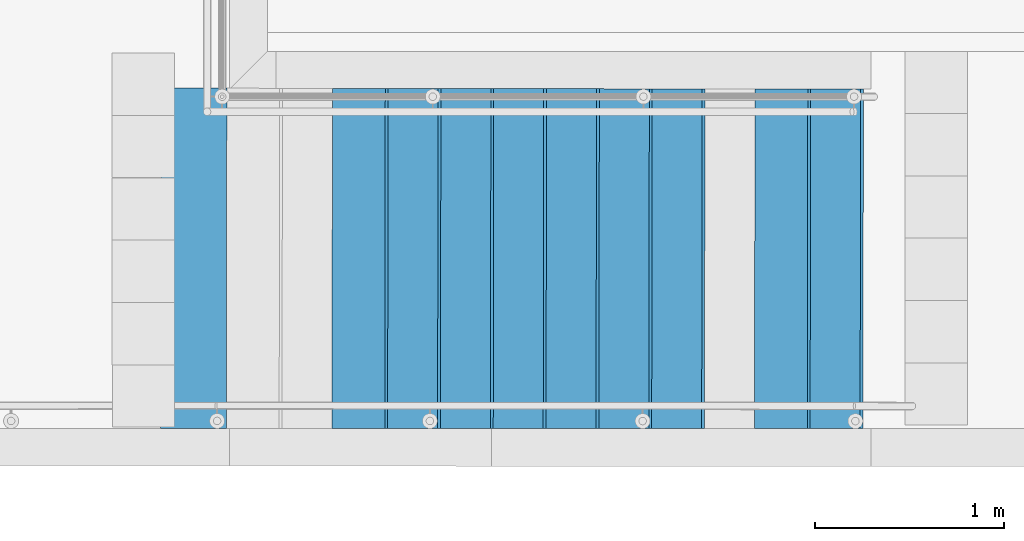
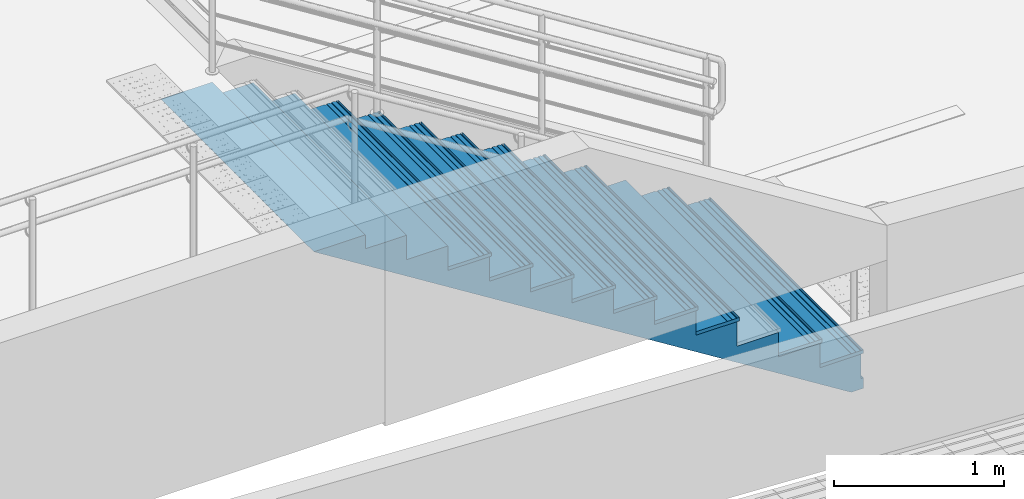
# One storey, part 24 of 237: 10 members, 1 element without a shape of its own.
"""IFC2X3 building model written with IfcOpenShell, lengths in millimetres."""

from ifc_helpers import new_model, entity, si_unit, converted_unit, derived_unit, money_unit, direction, frame, origin_with_axes, place, context, subcontext, project, spatial, faceted_brep, material, type_object, element, aggregate, save


model = new_model("IFC2X3")

# Units and contexts
model_context = context("Model", 3, precision=0.01, world=origin_with_axes(), true_north=direction((0.0, 1.0)))
body_context = subcontext(model_context, "Body", "Model", "MODEL_VIEW")
ifc_project = project(units=[si_unit("LENGTHUNIT", "METRE", prefix="MILLI"), si_unit("AREAUNIT", "SQUARE_METRE"), si_unit("VOLUMEUNIT", "CUBIC_METRE"), converted_unit("PLANEANGLEUNIT", "DEGREE", entity("IfcPlaneAngleMeasure", 0.0174532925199), si_unit("PLANEANGLEUNIT", "RADIAN"), dimensions=[0, 0, 0, 0, 0, 0, 0]), money_unit("USD"), converted_unit("TIMEUNIT", "Year", entity("IfcTimeMeasure", 31556926.0), si_unit("TIMEUNIT", "SECOND"), dimensions=[0, 0, 1, 0, 0, 0, 0]), si_unit("MASSUNIT", "GRAM", prefix="KILO"), si_unit("THERMODYNAMICTEMPERATUREUNIT", "DEGREE_CELSIUS"), si_unit("LUMINOUSINTENSITYUNIT", "LUMEN"), si_unit("ENERGYUNIT", "JOULE", prefix="MEGA"), derived_unit("THERMALCONDUCTANCEUNIT", [(si_unit("POWERUNIT", "WATT"), 1), (si_unit("LENGTHUNIT", "METRE"), -1), (si_unit("THERMODYNAMICTEMPERATUREUNIT", "KELVIN"), -1)]), derived_unit("SPECIFICHEATCAPACITYUNIT", [(si_unit("ENERGYUNIT", "JOULE"), 1), (si_unit("MASSUNIT", "GRAM", prefix="KILO"), -1), (si_unit("THERMODYNAMICTEMPERATUREUNIT", "KELVIN"), -1)]), derived_unit("MASSDENSITYUNIT", [(si_unit("MASSUNIT", "GRAM", prefix="KILO"), 1), (si_unit("VOLUMEUNIT", "CUBIC_METRE"), -1)])], contexts=[model_context])

# Site, building, storey
site_placement = place(None, origin_with_axes())
site = spatial("IfcSite", under=ifc_project, at=site_placement, Name="Local", CompositionType="ELEMENT")
building_placement = place(site_placement, origin_with_axes())
building = spatial("IfcBuilding", under=site, at=building_placement, Name="Construção", CompositionType="ELEMENT")
storey_placement = place(building_placement, origin_with_axes())
storey = spatial("IfcBuildingStorey", under=building, at=storey_placement, Name="Pavimento Térreo", CompositionType="ELEMENT", Elevation=0.0)

# Stair, members
stair_placement = place(storey_placement, frame((103623.862542, 14794.5079943, -7274.60754302), z_axis=(0.0, 0.0, 1.0), x_axis=(1.0, 0.0, 0.0)))
stair = element("IfcStair", 1, at=stair_placement, inside=storey, Name="Escada - 012", ShapeType="NOTDEFINED")
ifc_material_1 = material(Name="Concreto - Estrutural")
member_type = type_object("IfcMemberType", Name="IfcMember", PredefinedType="NOTDEFINED")
member_1_placement = place(stair_placement, origin_with_axes())
member_1 = element("IfcMember", 2, at=member_1_placement, type_object=member_type, material=ifc_material_1, Name="Lance - 014", context=body_context, shape_type="Brep", body=[
    faceted_brep([(-3360.43120854, -295.773441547, 1952.22165973), (-3359.99647032, 4.87025900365, 1952.22165973), (-3313.32985188, 4.80316482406, 1922.99097179), (-3361.30068658, -897.061954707, 1952.22165973), (-3362.17016463, -1498.35046787, 1952.22165973), (-3362.60490365, -1798.99472411, 1952.22165973), (-3377.60491286, -1798.99024504, 1961.61737358), (-3726.24643441, -1798.48610079, 2180.0), (-3723.63797539, 5.39664851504, 2180.0), (-3359.99646952, 4.87081503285, 2079.61538462), (-3094.99674796, 4.48665849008, 2079.61538462), (-3094.99674796, 4.48665849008, 1904.23076923), (-2814.99704217, 4.08075723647, 1904.23076923), (-2814.99704217, 4.08075723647, 1728.84615385), (-2534.99733638, 3.67485537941, 1728.84615385), (-2534.99733638, 3.67485537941, 1553.46153846), (-2254.99763058, 3.26895462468, 1553.46153846), (-2254.99763058, 3.26895462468, 1378.07692308), (-1974.99792479, 2.86305367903, 1378.07692308), (-1974.99792479, 2.86305367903, 1202.69230769), (-1694.998219, 2.45715247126, 1202.69230769), (-1694.998219, 2.45715247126, 1027.30769231), (-1414.9985132, 2.05125107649, 1027.30769231), (-1414.9985132, 2.05125107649, 851.923076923), (-1134.99880741, 1.64534949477, 851.923076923), (-1134.99880741, 1.64534949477, 676.538461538), (-854.999101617, 1.23944902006, 676.538461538), (-854.999101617, 1.23944902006, 501.153846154), (-574.999395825, 0.833547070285, 501.153846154), (-574.999395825, 0.833547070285, 325.769230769), (-294.999690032, 0.427646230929, 325.769230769), (-294.999690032, 0.427646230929, 150.384615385), (-14.9999842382, 0.021745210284, 150.384615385), (-14.9999842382, 0.021745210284, -25.0), (0.0, 0.0, -25.0), (0.0, 0.0, -100.0), (-83.6452411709, 0.12125622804, -100.0), (-93.3332352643, 0.135300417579, -93.9316896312), (-186.666470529, 0.270600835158, -35.4701511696), (-279.999705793, 0.405901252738, 22.9913872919), (-373.332941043, 0.541211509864, 81.4529257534), (-466.666176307, 0.676511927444, 139.914464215), (-559.999411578, 0.811807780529, 198.376002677), (-653.332646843, 0.947108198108, 256.837541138), (-746.665882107, 1.08240861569, 315.2990796), (-839.999117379, 1.21770375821, 373.760618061), (-933.332352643, 1.35300417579, 432.222156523), (-1026.66558791, 1.48830459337, 490.683694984), (-1119.99882317, 1.62360501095, 549.145233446), (-1213.33205842, 1.75891628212, 607.606771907), (-1306.66529368, 1.8942166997, 666.068310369), (-1399.99852897, 2.02950626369, 724.52984883), (-1493.33176423, 2.16480668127, 782.991387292), (-1586.66499949, 2.30010709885, 841.452925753), (-1679.99823476, 2.43540751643, 899.914464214), (-1773.33147002, 2.57070995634, 958.376002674), (-1866.66470528, 2.70601037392, 1016.83754113), (-1959.99794055, 2.84131079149, 1075.29907956), (-2053.33117581, 2.97661400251, 1133.76061799), (-2146.66441107, 3.11191442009, 1192.22215642), (-2239.99764634, 3.24721395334, 1250.68369482), (-2286.66426397, 3.31486416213, 1279.91446413), (-2333.3308816, 3.38251437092, 1309.14523343), (-2379.99749923, 3.45016457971, 1338.37600274), (-2426.66411687, 3.5178147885, 1367.60677206), (-2473.3307345, 3.58546499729, 1396.83754157), (-2519.99735214, 3.65311127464, 1426.06831109), (-2566.66396977, 3.72076148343, 1455.29908168), (-2613.3305874, 3.78841169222, 1484.52985228), (-2659.99720503, 3.85606190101, 1513.76062271), (-2706.66382267, 3.9237121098, 1542.99139313), (-2753.3304403, 3.99136231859, 1572.22216309), (-2799.99705793, 4.05901252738, 1601.45293305), (-2846.66367556, 4.12666273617, 1630.68369678), (-2893.33029319, 4.19431294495, 1659.91446051), (-2939.99691083, 4.26196315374, 1689.14522126), (-2986.66352846, 4.32961336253, 1718.37598202), (-3033.33014609, 4.39726357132, 1747.6067339), (-3079.99676372, 4.46491378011, 1776.83748579), (-3126.66338136, 4.5325639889, 1806.06819211), (-3173.32999899, 4.60021419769, 1835.29889842), (-3219.99661662, 4.66786440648, 1864.52959114), (-3266.66323425, 4.73551461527, 1893.76028385), (-3374.99645376, 4.89255974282, 2180.0), (-3374.99645376, 4.89255974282, 2079.61538462), (-3267.09831051, -295.890837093, 1893.76027465), (-3314.19966717, -596.467443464, 1922.99096259), (-3315.06948245, -1197.73805175, 1922.99095339), (-3315.93929773, -1799.00866004, 1922.99094418), (-3269.27369181, -1799.02259563, 1893.76022864), (-3222.60808589, -1799.03653123, 1864.52955406), (-3175.94247997, -1799.05046682, 1835.29887948), (-3129.27687405, -1799.06440242, 1806.06828424), (-3082.61126815, -1799.07834755, 1776.837689), (-3035.94457265, -1799.09228347, 1747.60683005), (-2989.27787715, -1799.10621939, 1718.37597109), (-2942.61118165, -1799.12015531, 1689.14518003), (-2895.94448615, -1799.13409123, 1659.91438897), (-2849.27779065, -1799.14802715, 1630.68358696), (-2802.61109515, -1799.16196307, 1601.45278496), (-2755.94439964, -1799.17588944, 1572.22204285), (-2709.27770414, -1799.18982536, 1542.99130074), (-2662.61100864, -1799.20376128, 1513.76055123), (-2615.94431314, -1799.2176972, 1484.52980172), (-2569.27761764, -1799.23163312, 1455.29904841), (-2522.61092214, -1799.24556904, 1426.06829509), (-2475.94422664, -1799.25950496, 1396.83753125), (-2429.27753115, -1799.27344088, 1367.60676742), (-2382.61083565, -1799.2873768, 1338.37599981), (-2335.94414015, -1799.30131271, 1309.1452322), (-2289.27744465, -1799.31524863, 1279.91446366), (-2242.61074915, -1799.32918761, 1250.68369511), (-2149.27735816, -1799.35705945, 1192.22215666), (-2055.94396716, -1799.38493129, 1133.76061815), (-1962.61057616, -1799.41280312, 1075.29907963), (-1869.27718516, -1799.44067191, 1016.83754114), (-1775.94379416, -1799.46854374, 958.376002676), (-1682.61040317, -1799.4964233, 899.914464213), (-1589.27701217, -1799.52429513, 841.452925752), (-1495.94362118, -1799.55216697, 782.991387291), (-1402.61023018, -1799.58003881, 724.52984883), (-1309.27683917, -1799.60790293, 666.068310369), (-1215.94344817, -1799.63577477, 607.606771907), (-1122.61005719, -1799.663659, 549.145233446), (-1029.27666619, -1799.69153084, 490.683694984), (-935.943275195, -1799.71940268, 432.222156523), (-842.609884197, -1799.74727451, 373.760618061), (-749.276493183, -1799.77513528, 315.2990796), (-655.943102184, -1799.80300712, 256.837541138), (-562.609711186, -1799.83087896, 198.376002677), (-469.276320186, -1799.85874948, 139.914464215), (-375.942929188, -1799.88662132, 81.4529257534), (-282.60953819, -1799.91449315, 22.9913872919), (-189.276147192, -1799.94236499, -35.4701511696), (-95.9427561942, -1799.97023683, -93.9316896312), (-86.2547459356, -1799.97312993, -100.0), (-2.60936519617, -1799.99810867, -100.0), (-2.60936519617, -1799.99810867, -25.0), (-17.609374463, -1799.99362877, -25.0), (-17.609374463, -1799.99362877, 150.384615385), (-297.609547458, -1799.91001382, 150.384615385), (-297.609547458, -1799.91001382, 325.769230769), (-577.609720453, -1799.82639887, 325.769230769), (-577.609720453, -1799.82639887, 501.153846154), (-857.609893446, -1799.74278255, 501.153846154), (-857.609893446, -1799.74278255, 676.538461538), (-1137.61006644, -1799.6591676, 676.538461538), (-1137.61006644, -1799.6591676, 851.923076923), (-1417.61023943, -1799.57555128, 851.923076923), (-1417.61023943, -1799.57555128, 1027.30769231), (-1697.61041243, -1799.49193633, 1027.30769231), (-1697.61041243, -1799.49193633, 1202.69230769), (-1977.61058542, -1799.40832002, 1202.69230769), (-1977.61058542, -1799.40832002, 1378.07692308), (-2257.61075842, -1799.32470507, 1378.07692308), (-2257.61075842, -1799.32470507, 1553.46153846), (-2537.61093141, -1799.24109012, 1553.46153846), (-2537.61093141, -1799.24109012, 1728.84615385), (-2817.6111044, -1799.15747381, 1728.84615385), (-2817.6111044, -1799.15747381, 1904.23076923), (-3097.6112774, -1799.07385861, 1904.23076923), (-3097.6112774, -1799.07385861, 2079.61538462), (-3362.60490365, -1798.99472445, 2079.61538462), (-3377.60491286, -1798.99024504, 2079.61538462), (-3377.60491286, -1798.99024504, 2180.0), (-2240.43316347, -297.182185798, 1250.68369487), (-2242.17523201, -1498.8997848, 1250.68369506), (-2241.30419774, -898.0409853, 1250.68369497), (-2333.76642469, -297.064790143, 1309.14523322), (-2427.09968591, -296.947394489, 1367.60677129), (-2520.43294714, -296.830002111, 1426.06830842), (-2613.76620836, -296.712606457, 1484.52984385), (-2707.09946958, -296.595210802, 1542.99137773), (-2800.4327308, -296.477816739, 1601.45290836), (-2893.76599202, -296.360421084, 1659.91444858), (-2987.09925324, -296.24302543, 1718.3759802), (-3080.43251446, -296.125629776, 1776.83751966), (-3173.76541248, -296.008232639, 1835.29889527), (-3267.96846303, -897.14354051, 1893.76025624), (-3268.83861555, -1498.39624393, 1893.76023784), (-3175.50706647, -1498.44201999, 1835.29888264), (-3082.17551741, -1498.487804, 1776.83765513), (-2988.84215237, -1498.5335806, 1718.37597291), (-2895.50878732, -1498.5793572, 1659.91440089), (-2802.17542228, -1498.6251338, 1601.45280964), (-2708.84205723, -1498.67090245, 1542.99131614), (-2615.50869218, -1498.71667905, 1484.52981015), (-2522.17532714, -1498.76245565, 1426.06829776), (-2428.8419621, -1498.8082316, 1367.60676819), (-2335.50859706, -1498.8540082, 1309.1452324), (-2288.40638442, -1198.43854437, 1279.91446382), (-2287.5353242, -597.561840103, 1279.91446397), (-2380.86861137, -597.462349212, 1338.37600177), (-2474.20189855, -597.362858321, 1396.83753813), (-2567.53518573, -597.263370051, 1455.29907059), (-2660.8684729, -597.16387916, 1513.76059888), (-2754.20176008, -597.064388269, 1572.22212301), (-2847.53504726, -596.964900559, 1630.68366017), (-2940.86833443, -596.865409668, 1689.14520752), (-3034.20162161, -596.765918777, 1747.60676595), (-3127.53454559, -596.666424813, 1806.06822282), (-3220.86710638, -596.566934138, 1864.52957878), (-3221.73759614, -1197.80173268, 1864.52956642), (-3128.40570982, -1197.86541361, 1806.06825353), (-3035.07309713, -1197.92910112, 1747.606798), (-2941.73975804, -1197.99278249, 1689.14519377), (-2848.40641895, -1198.05646385, 1630.68362357), (-2755.07307986, -1198.12013886, 1572.22208293), (-2661.73974077, -1198.18382022, 1513.76057506), (-2568.40640168, -1198.24750159, 1455.2990595), (-2475.0730626, -1198.31118164, 1396.83753469), (-2381.73972351, -1198.374863, 1338.37600079), (-2334.63751088, -897.959399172, 1309.14523281), (-2427.97082401, -897.877813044, 1367.60676974), (-2521.30413714, -897.796228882, 1426.06830309), (-2614.63745027, -897.714642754, 1484.529827), (-2707.9707634, -897.633056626, 1542.99134694), (-2801.30407654, -897.55147527, 1601.452859), (-2894.63738967, -897.469889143, 1659.91442474), (-2987.9707028, -897.388303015, 1718.37597655), (-3081.30401593, -897.306716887, 1776.8375874), (-3174.63623948, -897.225126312, 1835.29888895)], [[[0, 1, 2]], [[1, 0, 3, 4, 5, 6, 7, 8]], [[9, 10, 11, 12, 13, 14, 15, 16, 17, 18, 19, 20, 21, 22, 23, 24, 25, 26, 27, 28, 29, 30, 31, 32, 33, 34, 35, 36, 37, 38, 39, 40, 41, 42, 43, 44, 45, 46, 47, 48, 49, 50, 51, 52, 53, 54, 55, 56, 57, 58, 59, 60, 61, 62, 63, 64, 65, 66, 67, 68, 69, 70, 71, 72, 73, 74, 75, 76, 77, 78, 79, 80, 81, 82, 2, 1, 8, 83, 84]], [[2, 85, 86, 0]], [[3, 0, 86]], [[4, 3, 87]], [[5, 4, 88]], [[5, 88, 89, 90, 91, 92, 93, 94, 95, 96, 97, 98, 99, 100, 101, 102, 103, 104, 105, 106, 107, 108, 109, 110, 111, 112, 113, 114, 115, 116, 117, 118, 119, 120, 121, 122, 123, 124, 125, 126, 127, 128, 129, 130, 131, 132, 133, 134, 135, 136, 137, 138, 139, 140, 141, 142, 143, 144, 145, 146, 147, 148, 149, 150, 151, 152, 153, 154, 155, 156, 157, 158, 159, 160, 161, 162, 163, 6]], [[6, 163, 164, 7]], [[7, 164, 83, 8]], [[162, 161, 10, 9, 84, 163]], [[161, 160, 11, 10]], [[160, 159, 12, 11]], [[159, 158, 13, 12]], [[158, 157, 14, 13]], [[157, 156, 15, 14]], [[156, 155, 16, 15]], [[155, 154, 17, 16]], [[154, 153, 18, 17]], [[153, 152, 19, 18]], [[152, 151, 20, 19]], [[151, 150, 21, 20]], [[150, 149, 22, 21]], [[149, 148, 23, 22]], [[148, 147, 24, 23]], [[147, 146, 25, 24]], [[146, 145, 26, 25]], [[145, 144, 27, 26]], [[144, 143, 28, 27]], [[143, 142, 29, 28]], [[142, 141, 30, 29]], [[141, 140, 31, 30]], [[140, 139, 32, 31]], [[139, 138, 33, 32]], [[33, 138, 137, 34]], [[136, 35, 34, 137]], [[36, 35, 136, 135]], [[36, 135, 134, 37]], [[133, 38, 37, 134]], [[132, 39, 38, 133]], [[131, 40, 39, 132]], [[130, 41, 40, 131]], [[129, 42, 41, 130]], [[128, 43, 42, 129]], [[127, 44, 43, 128]], [[126, 45, 44, 127]], [[125, 46, 45, 126]], [[124, 47, 46, 125]], [[123, 48, 47, 124]], [[122, 49, 48, 123]], [[121, 50, 49, 122]], [[120, 51, 50, 121]], [[119, 52, 51, 120]], [[118, 53, 52, 119]], [[117, 54, 53, 118]], [[116, 55, 54, 117]], [[115, 56, 55, 116]], [[114, 57, 56, 115]], [[113, 58, 57, 114]], [[112, 59, 58, 113]], [[165, 60, 59, 112, 111, 166, 167]], [[165, 61, 60]], [[168, 62, 61]], [[168, 63, 62]], [[169, 64, 63]], [[169, 65, 64]], [[170, 66, 65]], [[170, 67, 66]], [[171, 68, 67]], [[171, 69, 68]], [[172, 70, 69]], [[172, 71, 70]], [[173, 72, 71]], [[173, 73, 72]], [[174, 74, 73]], [[174, 75, 74]], [[175, 76, 75]], [[175, 77, 76]], [[176, 78, 77]], [[176, 79, 78]], [[177, 80, 79]], [[177, 81, 80]], [[85, 82, 81]], [[85, 2, 82]], [[163, 84, 83, 164]], [[86, 85, 178]], [[86, 178, 87, 3]], [[87, 179, 88, 4]], [[179, 89, 88]], [[179, 90, 89]], [[180, 91, 90]], [[180, 92, 91]], [[181, 93, 92]], [[181, 94, 93]], [[182, 95, 94]], [[182, 96, 95]], [[183, 97, 96]], [[183, 98, 97]], [[184, 99, 98]], [[184, 100, 99]], [[185, 101, 100]], [[185, 102, 101]], [[186, 103, 102]], [[186, 104, 103]], [[187, 105, 104]], [[187, 106, 105]], [[188, 107, 106]], [[188, 108, 107]], [[189, 109, 108]], [[189, 110, 109]], [[166, 111, 110]], [[190, 167, 166]], [[191, 165, 167]], [[168, 61, 165, 191]], [[63, 168, 192, 169]], [[65, 169, 193, 170]], [[171, 67, 170, 194]], [[172, 69, 171, 195]], [[71, 172, 196, 173]], [[73, 173, 197, 174]], [[175, 75, 174, 198]], [[176, 77, 175, 199]], [[79, 176, 200, 177]], [[81, 177, 201, 85]], [[85, 201, 178]], [[179, 87, 178]], [[202, 180, 90, 179]], [[203, 181, 92, 180]], [[204, 182, 94, 181]], [[205, 183, 96, 182]], [[183, 206, 184, 98]], [[207, 185, 100, 184]], [[185, 208, 186, 102]], [[209, 187, 104, 186]], [[210, 188, 106, 187]], [[188, 211, 189, 108]], [[189, 190, 166, 110]], [[191, 167, 190, 212]], [[212, 168, 191]], [[192, 168, 212]], [[213, 169, 192]], [[213, 193, 169]], [[170, 193, 214]], [[194, 170, 214]], [[215, 171, 194]], [[195, 171, 215]], [[216, 172, 195]], [[196, 172, 216]], [[173, 196, 217]], [[217, 197, 173]], [[174, 197, 218]], [[218, 198, 174]], [[219, 175, 198]], [[219, 199, 175]], [[220, 176, 199]], [[200, 176, 220]], [[221, 177, 200]], [[201, 177, 221]], [[178, 201, 221, 202]], [[179, 178, 202]], [[202, 221, 180]], [[203, 220, 181]], [[221, 203, 180]], [[182, 204, 219]], [[220, 204, 181]], [[183, 205, 218]], [[182, 219, 205]], [[218, 206, 183]], [[184, 206, 217]], [[185, 207, 216]], [[217, 207, 184]], [[216, 208, 185]], [[208, 215, 186]], [[209, 214, 187]], [[186, 215, 209]], [[210, 213, 188]], [[187, 214, 210]], [[213, 211, 188]], [[189, 211, 212]], [[189, 212, 190]], [[213, 192, 212, 211]], [[214, 193, 213, 210]], [[194, 214, 209, 215]], [[195, 215, 208, 216]], [[217, 196, 216, 207]], [[197, 217, 206, 218]], [[219, 198, 218, 205]], [[220, 199, 219, 204]], [[221, 200, 220, 203]]]),
])
ifc_material_2 = material(Name="Concreto Armado - Pré-fabricado")
member_2_placement = place(stair_placement, frame((-1.30468259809, -899.999054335, 175.384615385), z_axis=(0.0, 0.0, 1.0), x_axis=(0.00144964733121, 0.999998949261, 0.0)))
member_2 = element("IfcMember", 3, at=member_2_placement, type_object=member_type, material=ifc_material_2, Name="Piso Esc. - 102", context=body_context, shape_type="Brep", body=[
    faceted_brep([(-900.0, 80.0, 0.0), (-900.0, 95.0, 0.0), (900.0, 95.0, 0.0), (900.0, 295.000011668, 0.0), (-900.339551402, 295.000000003, 0.0), (-900.0, 0.0, 0.0), (900.0, 0.0, 0.0), (900.0, 15.0, 0.0), (-900.0, 15.0, 0.0), (-900.0, 30.0, 0.0), (900.0, 30.0, 0.0), (900.0, 47.5, 0.0), (-900.0, 47.5, 0.0), (-900.0, 62.5, 0.0), (900.0, 62.5, 0.0), (900.0, 80.0, 0.0), (-900.0, 80.0, -5.0), (-900.0, 95.0, -5.0), (900.0, 95.0, -5.0), (900.0, 80.0, -5.0), (900.0, 62.5, -5.0), (900.0, 47.5, -5.0), (900.0, 30.0, -5.0), (900.0, 15.0, -5.0), (900.0, 0.0, -25.0), (900.0, 295.000011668, -25.0), (-900.339551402, 295.000000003, -25.0), (-900.0, 0.0, -25.0), (-900.0, 15.0, -5.0), (-900.0, 30.0, -5.0), (-900.0, 47.5, -5.0), (-900.0, 62.5, -5.0)], [[[0, 1, 2, 3, 4, 5, 6, 7, 8, 9, 10, 11, 12, 13, 14, 15]], [[1, 0, 16, 17]], [[18, 2, 1, 17]], [[19, 15, 14, 20, 21, 11, 10, 22, 23, 7, 6, 24, 25, 3, 2, 18]], [[3, 25, 26, 4]], [[4, 26, 27, 5]], [[5, 27, 24, 6]], [[23, 28, 8, 7]], [[28, 29, 9, 8]], [[9, 29, 22, 10]], [[11, 21, 30, 12]], [[12, 30, 31, 13]], [[14, 13, 31, 20]], [[0, 15, 19, 16]], [[19, 18, 17, 16]], [[20, 31, 30, 21]], [[29, 28, 23, 22]], [[24, 27, 26, 25]]]),
])
member_3_placement = place(stair_placement, frame((-281.304388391, -899.593153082, 350.769230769), z_axis=(0.0, 0.0, 1.0), x_axis=(0.00144964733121, 0.999998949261, 0.0)))
member_3 = element("IfcMember", 4, at=member_3_placement, type_object=member_type, material=ifc_material_2, Name="Piso Esc. - 103", context=body_context, shape_type="Brep", body=[
    faceted_brep([(-900.322286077, 80.0, 0.0), (-900.322286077, 95.0, 0.0), (900.0, 95.0, 0.0), (900.0, 295.000011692, 0.0), (-900.661837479, 294.999999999, 0.0), (-900.322286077, 0.0, 0.0), (900.0, 0.0, 0.0), (900.0, 15.0, 0.0), (-900.322286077, 15.0, 0.0), (-900.322286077, 30.0, 0.0), (900.0, 30.0, 0.0), (900.0, 47.5, 0.0), (-900.322286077, 47.5, 0.0), (-900.322286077, 62.5, 0.0), (900.0, 62.5, 0.0), (900.0, 80.0, 0.0), (-900.322286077, 80.0, -5.0), (-900.322286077, 95.0, -5.0), (900.0, 95.0, -5.0), (900.0, 80.0, -5.0), (900.0, 62.5, -5.0), (900.0, 47.5, -5.0), (900.0, 30.0, -5.0), (900.0, 15.0, -5.0), (900.0, 0.0, -25.0), (900.0, 295.000011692, -25.0), (-900.661837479, 294.999999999, -25.0), (-900.322286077, 0.0, -25.0), (-900.322286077, 15.0, -5.0), (-900.322286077, 30.0, -5.0), (-900.322286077, 47.5, -5.0), (-900.322286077, 62.5, -5.0)], [[[0, 1, 2, 3, 4, 5, 6, 7, 8, 9, 10, 11, 12, 13, 14, 15]], [[1, 0, 16, 17]], [[18, 2, 1, 17]], [[19, 15, 14, 20, 21, 11, 10, 22, 23, 7, 6, 24, 25, 3, 2, 18]], [[3, 25, 26, 4]], [[4, 26, 27, 5]], [[5, 27, 24, 6]], [[23, 28, 8, 7]], [[28, 29, 9, 8]], [[9, 29, 22, 10]], [[11, 21, 30, 12]], [[12, 30, 31, 13]], [[14, 13, 31, 20]], [[0, 15, 19, 16]], [[19, 18, 17, 16]], [[20, 31, 30, 21]], [[29, 28, 23, 22]], [[24, 27, 26, 25]]]),
])
member_4_placement = place(stair_placement, frame((-841.303799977, -898.781350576, 701.538461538), z_axis=(0.0, 0.0, 1.0), x_axis=(0.00144964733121, 0.999998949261, 0.0)))
member_4 = element("IfcMember", 5, at=member_4_placement, type_object=member_type, material=ifc_material_2, Name="Piso Esc. - 105", context=body_context, shape_type="Brep", body=[
    faceted_brep([(-900.96685823, 80.0, 0.0), (-900.96685823, 95.0, 0.0), (900.0, 95.0, 0.0), (900.0, 295.000011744, 0.0), (-901.306409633, 295.000000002, 0.0), (-900.96685823, 0.0, 0.0), (900.0, 0.0, 0.0), (900.0, 15.0, 0.0), (-900.96685823, 15.0, 0.0), (-900.96685823, 30.0, 0.0), (900.0, 30.0, 0.0), (900.0, 47.5, 0.0), (-900.96685823, 47.5, 0.0), (-900.96685823, 62.5, 0.0), (900.0, 62.5, 0.0), (900.0, 80.0, 0.0), (-900.96685823, 80.0, -5.0), (-900.96685823, 95.0, -5.0), (900.0, 95.0, -5.0), (900.0, 80.0, -5.0), (900.0, 62.5, -5.0), (900.0, 47.5, -5.0), (900.0, 30.0, -5.0), (900.0, 15.0, -5.0), (900.0, 0.0, -25.0), (900.0, 295.000011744, -25.0), (-901.306409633, 295.000000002, -25.0), (-900.96685823, 0.0, -25.0), (-900.96685823, 15.0, -5.0), (-900.96685823, 30.0, -5.0), (-900.96685823, 47.5, -5.0), (-900.96685823, 62.5, -5.0)], [[[0, 1, 2, 3, 4, 5, 6, 7, 8, 9, 10, 11, 12, 13, 14, 15]], [[1, 0, 16, 17]], [[18, 2, 1, 17]], [[19, 15, 14, 20, 21, 11, 10, 22, 23, 7, 6, 24, 25, 3, 2, 18]], [[3, 25, 26, 4]], [[4, 26, 27, 5]], [[5, 27, 24, 6]], [[23, 28, 8, 7]], [[28, 29, 9, 8]], [[9, 29, 22, 10]], [[11, 21, 30, 12]], [[12, 30, 31, 13]], [[14, 13, 31, 20]], [[0, 15, 19, 16]], [[19, 18, 17, 16]], [[20, 31, 30, 21]], [[29, 28, 23, 22]], [[24, 27, 26, 25]]]),
])
member_5_placement = place(stair_placement, frame((-1121.30350577, -898.375449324, 876.923076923), z_axis=(0.0, 0.0, 1.0), x_axis=(0.00144964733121, 0.999998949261, 0.0)))
member_5 = element("IfcMember", 6, at=member_5_placement, type_object=member_type, material=ifc_material_2, Name="Piso Esc. - 106", context=body_context, shape_type="Brep", body=[
    faceted_brep([(-901.289144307, 80.0, 0.0), (-901.289144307, 95.0, 0.0), (900.0, 95.0, 0.0), (900.0, 295.000011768, 0.0), (-901.62869571, 294.999999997, 0.0), (-901.289144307, 0.0, 0.0), (900.0, 0.0, 0.0), (900.0, 15.0, 0.0), (-901.289144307, 15.0, 0.0), (-901.289144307, 30.0, 0.0), (900.0, 30.0, 0.0), (900.0, 47.5, 0.0), (-901.289144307, 47.5, 0.0), (-901.289144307, 62.5, 0.0), (900.0, 62.5, 0.0), (900.0, 80.0, 0.0), (-901.289144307, 80.0, -5.0), (-901.289144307, 95.0, -5.0), (900.0, 95.0, -5.0), (900.0, 80.0, -5.0), (900.0, 62.5, -5.0), (900.0, 47.5, -5.0), (900.0, 30.0, -5.0), (900.0, 15.0, -5.0), (900.0, 0.0, -25.0), (900.0, 295.000011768, -25.0), (-901.62869571, 294.999999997, -25.0), (-901.289144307, 0.0, -25.0), (-901.289144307, 15.0, -5.0), (-901.289144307, 30.0, -5.0), (-901.289144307, 47.5, -5.0), (-901.289144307, 62.5, -5.0)], [[[0, 1, 2, 3, 4, 5, 6, 7, 8, 9, 10, 11, 12, 13, 14, 15]], [[1, 0, 16, 17]], [[18, 2, 1, 17]], [[19, 15, 14, 20, 21, 11, 10, 22, 23, 7, 6, 24, 25, 3, 2, 18]], [[3, 25, 26, 4]], [[4, 26, 27, 5]], [[5, 27, 24, 6]], [[23, 28, 8, 7]], [[28, 29, 9, 8]], [[9, 29, 22, 10]], [[11, 21, 30, 12]], [[12, 30, 31, 13]], [[14, 13, 31, 20]], [[0, 15, 19, 16]], [[19, 18, 17, 16]], [[20, 31, 30, 21]], [[29, 28, 23, 22]], [[24, 27, 26, 25]]]),
])
member_6_placement = place(stair_placement, frame((-1401.30321156, -897.969548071, 1052.30769231), z_axis=(0.0, 0.0, 1.0), x_axis=(0.00144964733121, 0.999998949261, 0.0)))
member_6 = element("IfcMember", 7, at=member_6_placement, type_object=member_type, material=ifc_material_2, Name="Piso Esc. - 107", context=body_context, shape_type="Brep", body=[
    faceted_brep([(-901.611430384, 80.0, 0.0), (-901.611430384, 95.0, 0.0), (900.0, 95.0, 0.0), (900.0, 295.000011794, 0.0), (-901.950981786, 295.000000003, 0.0), (-901.611430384, 0.0, 0.0), (900.0, 0.0, 0.0), (900.0, 15.0, 0.0), (-901.611430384, 15.0, 0.0), (-901.611430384, 30.0, 0.0), (900.0, 30.0, 0.0), (900.0, 47.5, 0.0), (-901.611430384, 47.5, 0.0), (-901.611430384, 62.5, 0.0), (900.0, 62.5, 0.0), (900.0, 80.0, 0.0), (-901.611430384, 80.0, -5.0), (-901.611430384, 95.0, -5.0), (900.0, 95.0, -5.0), (900.0, 80.0, -5.0), (900.0, 62.5, -5.0), (900.0, 47.5, -5.0), (900.0, 30.0, -5.0), (900.0, 15.0, -5.0), (900.0, 0.0, -25.0), (900.0, 295.000011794, -25.0), (-901.950981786, 295.000000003, -25.0), (-901.611430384, 0.0, -25.0), (-901.611430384, 15.0, -5.0), (-901.611430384, 30.0, -5.0), (-901.611430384, 47.5, -5.0), (-901.611430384, 62.5, -5.0)], [[[0, 1, 2, 3, 4, 5, 6, 7, 8, 9, 10, 11, 12, 13, 14, 15]], [[1, 0, 16, 17]], [[18, 2, 1, 17]], [[19, 15, 14, 20, 21, 11, 10, 22, 23, 7, 6, 24, 25, 3, 2, 18]], [[3, 25, 26, 4]], [[4, 26, 27, 5]], [[5, 27, 24, 6]], [[23, 28, 8, 7]], [[28, 29, 9, 8]], [[9, 29, 22, 10]], [[11, 21, 30, 12]], [[12, 30, 31, 13]], [[14, 13, 31, 20]], [[0, 15, 19, 16]], [[19, 18, 17, 16]], [[20, 31, 30, 21]], [[29, 28, 23, 22]], [[24, 27, 26, 25]]]),
])
member_7_placement = place(stair_placement, frame((-1681.30291736, -897.563646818, 1227.69230769), z_axis=(0.0, 0.0, 1.0), x_axis=(0.00144964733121, 0.999998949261, 0.0)))
member_7 = element("IfcMember", 8, at=member_7_placement, type_object=member_type, material=ifc_material_2, Name="Piso Esc. - 108", context=body_context, shape_type="Brep", body=[
    faceted_brep([(-901.933716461, 80.0, 0.0), (-901.933716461, 95.0, 0.0), (900.0, 95.0, 0.0), (900.0, 295.000011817, 0.0), (-902.273267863, 294.999999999, 0.0), (-901.933716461, 0.0, 0.0), (900.0, 0.0, 0.0), (900.0, 15.0, 0.0), (-901.933716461, 15.0, 0.0), (-901.933716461, 30.0, 0.0), (900.0, 30.0, 0.0), (900.0, 47.5, 0.0), (-901.933716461, 47.5, 0.0), (-901.933716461, 62.5, 0.0), (900.0, 62.5, 0.0), (900.0, 80.0, 0.0), (-901.933716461, 80.0, -5.0), (-901.933716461, 95.0, -5.0), (900.0, 95.0, -5.0), (900.0, 80.0, -5.0), (900.0, 62.5, -5.0), (900.0, 47.5, -5.0), (900.0, 30.0, -5.0), (900.0, 15.0, -5.0), (900.0, 0.0, -25.0), (900.0, 295.000011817, -25.0), (-902.273267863, 294.999999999, -25.0), (-901.933716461, 0.0, -25.0), (-901.933716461, 15.0, -5.0), (-901.933716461, 30.0, -5.0), (-901.933716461, 47.5, -5.0), (-901.933716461, 62.5, -5.0)], [[[0, 1, 2, 3, 4, 5, 6, 7, 8, 9, 10, 11, 12, 13, 14, 15]], [[1, 0, 16, 17]], [[18, 2, 1, 17]], [[19, 15, 14, 20, 21, 11, 10, 22, 23, 7, 6, 24, 25, 3, 2, 18]], [[3, 25, 26, 4]], [[4, 26, 27, 5]], [[5, 27, 24, 6]], [[23, 28, 8, 7]], [[28, 29, 9, 8]], [[9, 29, 22, 10]], [[11, 21, 30, 12]], [[12, 30, 31, 13]], [[14, 13, 31, 20]], [[0, 15, 19, 16]], [[19, 18, 17, 16]], [[20, 31, 30, 21]], [[29, 28, 23, 22]], [[24, 27, 26, 25]]]),
])
member_8_placement = place(stair_placement, frame((-1961.30262315, -897.157745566, 1403.07692308), z_axis=(0.0, 0.0, 1.0), x_axis=(0.00144964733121, 0.999998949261, 0.0)))
member_8 = element("IfcMember", 9, at=member_8_placement, type_object=member_type, material=ifc_material_2, Name="Piso Esc. - 109", context=body_context, shape_type="Brep", body=[
    faceted_brep([(-902.256002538, 80.0, 0.0), (-902.256002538, 95.0, 0.0), (900.0, 95.0, 0.0), (900.0, 295.000011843, 0.0), (-902.59555394, 295.000000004, 0.0), (-902.256002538, 0.0, 0.0), (900.0, 0.0, 0.0), (900.0, 15.0, 0.0), (-902.256002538, 15.0, 0.0), (-902.256002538, 30.0, 0.0), (900.0, 30.0, 0.0), (900.0, 47.5, 0.0), (-902.256002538, 47.5, 0.0), (-902.256002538, 62.5, 0.0), (900.0, 62.5, 0.0), (900.0, 80.0, 0.0), (-902.256002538, 80.0, -5.0), (-902.256002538, 95.0, -5.0), (900.0, 95.0, -5.0), (900.0, 80.0, -5.0), (900.0, 62.5, -5.0), (900.0, 47.5, -5.0), (900.0, 30.0, -5.0), (900.0, 15.0, -5.0), (900.0, 0.0, -25.0), (900.0, 295.000011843, -25.0), (-902.59555394, 295.000000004, -25.0), (-902.256002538, 0.0, -25.0), (-902.256002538, 15.0, -5.0), (-902.256002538, 30.0, -5.0), (-902.256002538, 47.5, -5.0), (-902.256002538, 62.5, -5.0)], [[[0, 1, 2, 3, 4, 5, 6, 7, 8, 9, 10, 11, 12, 13, 14, 15]], [[1, 0, 16, 17]], [[18, 2, 1, 17]], [[19, 15, 14, 20, 21, 11, 10, 22, 23, 7, 6, 24, 25, 3, 2, 18]], [[3, 25, 26, 4]], [[4, 26, 27, 5]], [[5, 27, 24, 6]], [[23, 28, 8, 7]], [[28, 29, 9, 8]], [[9, 29, 22, 10]], [[11, 21, 30, 12]], [[12, 30, 31, 13]], [[14, 13, 31, 20]], [[0, 15, 19, 16]], [[19, 18, 17, 16]], [[20, 31, 30, 21]], [[29, 28, 23, 22]], [[24, 27, 26, 25]]]),
])
member_9_placement = place(stair_placement, frame((-2241.30232894, -896.751844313, 1578.46153846), z_axis=(0.0, 0.0, 1.0), x_axis=(0.00144964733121, 0.999998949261, 0.0)))
member_9 = element("IfcMember", 10, at=member_9_placement, type_object=member_type, material=ifc_material_2, Name="Piso Esc. - 110", context=body_context, shape_type="Brep", body=[
    faceted_brep([(-902.578288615, 80.0, 0.0), (-902.578288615, 95.0, 0.0), (900.0, 95.0, 0.0), (900.0, 295.000011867, 0.0), (-902.917840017, 295.0, 0.0), (-902.578288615, 0.0, 0.0), (900.0, 0.0, 0.0), (900.0, 15.0, 0.0), (-902.578288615, 15.0, 0.0), (-902.578288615, 30.0, 0.0), (900.0, 30.0, 0.0), (900.0, 47.5, 0.0), (-902.578288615, 47.5, 0.0), (-902.578288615, 62.5, 0.0), (900.0, 62.5, 0.0), (900.0, 80.0, 0.0), (-902.578288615, 80.0, -5.0), (-902.578288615, 95.0, -5.0), (900.0, 95.0, -5.0), (900.0, 80.0, -5.0), (900.0, 62.5, -5.0), (900.0, 47.5, -5.0), (900.0, 30.0, -5.0), (900.0, 15.0, -5.0), (900.0, 0.0, -25.0), (900.0, 295.000011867, -25.0), (-902.917840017, 295.0, -25.0), (-902.578288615, 0.0, -25.0), (-902.578288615, 15.0, -5.0), (-902.578288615, 30.0, -5.0), (-902.578288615, 47.5, -5.0), (-902.578288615, 62.5, -5.0)], [[[0, 1, 2, 3, 4, 5, 6, 7, 8, 9, 10, 11, 12, 13, 14, 15]], [[1, 0, 16, 17]], [[18, 2, 1, 17]], [[19, 15, 14, 20, 21, 11, 10, 22, 23, 7, 6, 24, 25, 3, 2, 18]], [[3, 25, 26, 4]], [[4, 26, 27, 5]], [[5, 27, 24, 6]], [[23, 28, 8, 7]], [[28, 29, 9, 8]], [[9, 29, 22, 10]], [[11, 21, 30, 12]], [[12, 30, 31, 13]], [[14, 13, 31, 20]], [[0, 15, 19, 16]], [[19, 18, 17, 16]], [[20, 31, 30, 21]], [[29, 28, 23, 22]], [[24, 27, 26, 25]]]),
])
member_10_placement = place(stair_placement, frame((-2521.30203474, -896.34594306, 1753.84615385), z_axis=(0.0, 0.0, 1.0), x_axis=(0.00144964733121, 0.999998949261, 0.0)))
member_10 = element("IfcMember", 11, at=member_10_placement, type_object=member_type, material=ifc_material_2, Name="Piso Esc. - 111", context=body_context, shape_type="Brep", body=[
    faceted_brep([(-902.900574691, 80.0, 0.0), (-902.900574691, 95.0, 0.0), (900.0, 95.0, 0.0), (900.0, 295.000011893, 0.0), (-903.240126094, 294.999999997, 0.0), (-902.900574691, 0.0, 0.0), (900.0, 0.0, 0.0), (900.0, 15.0, 0.0), (-902.900574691, 15.0, 0.0), (-902.900574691, 30.0, 0.0), (900.0, 30.0, 0.0), (900.0, 47.5, 0.0), (-902.900574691, 47.5, 0.0), (-902.900574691, 62.5, 0.0), (900.0, 62.5, 0.0), (900.0, 80.0, 0.0), (-902.900574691, 80.0, -5.0), (-902.900574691, 95.0, -5.0), (900.0, 95.0, -5.0), (900.0, 80.0, -5.0), (900.0, 62.5, -5.0), (900.0, 47.5, -5.0), (900.0, 30.0, -5.0), (900.0, 15.0, -5.0), (900.0, 0.0, -25.0), (900.0, 295.000011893, -25.0), (-903.240126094, 294.999999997, -25.0), (-902.900574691, 0.0, -25.0), (-902.900574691, 15.0, -5.0), (-902.900574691, 30.0, -5.0), (-902.900574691, 47.5, -5.0), (-902.900574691, 62.5, -5.0)], [[[0, 1, 2, 3, 4, 5, 6, 7, 8, 9, 10, 11, 12, 13, 14, 15]], [[1, 0, 16, 17]], [[18, 2, 1, 17]], [[19, 15, 14, 20, 21, 11, 10, 22, 23, 7, 6, 24, 25, 3, 2, 18]], [[3, 25, 26, 4]], [[4, 26, 27, 5]], [[5, 27, 24, 6]], [[23, 28, 8, 7]], [[28, 29, 9, 8]], [[9, 29, 22, 10]], [[11, 21, 30, 12]], [[12, 30, 31, 13]], [[14, 13, 31, 20]], [[0, 15, 19, 16]], [[19, 18, 17, 16]], [[20, 31, 30, 21]], [[29, 28, 23, 22]], [[24, 27, 26, 25]]]),
])
aggregate(stair, [member_1, member_2, member_3, member_4, member_5, member_6, member_7, member_8, member_9, member_10])

save(model, "model.ifc")
